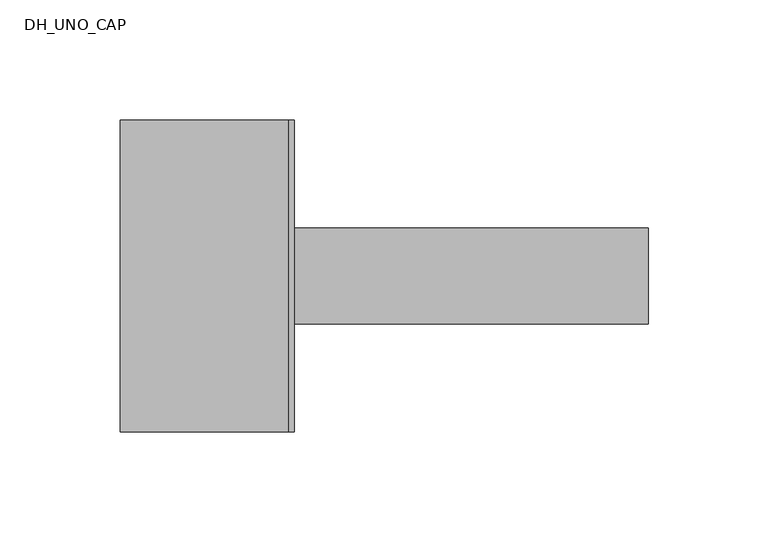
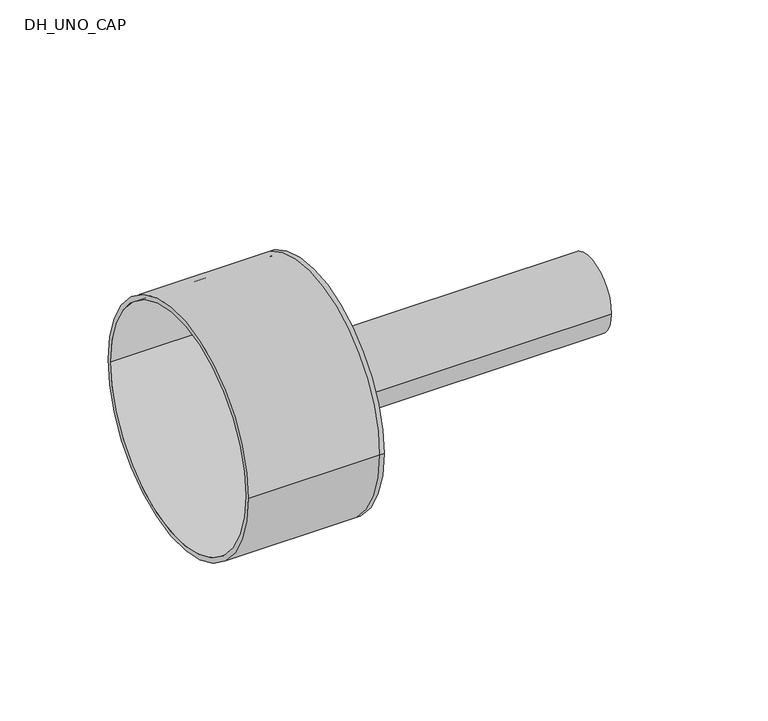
"""IFC4 building model written with IfcOpenShell, lengths in millimetres: pipe fitting geometry, DH_UNO_CAP : RAUVIPEX UNO + 11 Heating - Solid Cap."""

from ifc_helpers import new_model, si_unit, point, frame, origin, origin_2d, place, context, project, spatial, polyline, circle_curve, trimmed, segment, composite_curve, outline, extrude, source, transform, mapped, element, save
from ifc_brep_helpers import plane_surface, cylinder_surface, revolved_surface, advanced_brep


def dh_uno_cap_8bda4cdc(model_context):
    return source(origin(), model_context, "Body", "SolidModel", [
        extrude(outline(composite_curve([segment(trimmed(circle_curve(origin_2d(), 20.0), [point((-20.0, 0.0))], [point((20.0, 0.0))], False, "CARTESIAN"), True, "CONTINUOUS"), segment(trimmed(circle_curve(origin_2d(), 20.0), [point((20.0, 0.0))], [point((-20.0, 0.0))], False, "CARTESIAN"), True, "CONTINUOUS")], self_intersect=False), holes=[composite_curve([segment(trimmed(circle_curve(origin_2d(), 16.3), [point((-16.3, 0.0))], [point((16.3, 0.0))], True, "CARTESIAN"), True, "CONTINUOUS"), segment(trimmed(circle_curve(origin_2d(), 16.3), [point((16.3, 0.0))], [point((-16.3, 0.0))], True, "CARTESIAN"), True, "CONTINUOUS")], self_intersect=False)]), frame((0.0, 0.0, 0.0), z_axis=(1.0, 0.0, 0.0), x_axis=(0.0, 1.0, 0.0)), (0.0, 0.0, 1.0), 150.0),
        advanced_brep(
        [(-70.0, -65.0, 0.0), (-70.0, 65.0, 0.0), (-70.0, -62.5, 0.0), (-70.0, 62.5, 0.0), (0.0, -62.5, 0.0), (0.0, 62.5, 0.0), (0.0, -65.0, 0.0), (0.0, 65.0, 0.0), (0.0, 20.0, 0.0), (0.0, -20.0, 0.0), (2.5, -65.0, 0.0), (2.5, 65.0, 0.0), (2.5, -20.0, 0.0), (2.5, 20.0, 0.0)],
        [
            (0, 1, circle_curve(frame((-70.0, 0.0, 0.0), z_axis=(-1.0, 0.0, 0.0), x_axis=(0.0, 1.0, 0.0)), 65.0)),
            (1, 0, circle_curve(frame((-70.0, 0.0, 0.0), z_axis=(-1.0, 0.0, 0.0), x_axis=(0.0, 1.0, 0.0)), 65.0)),
            (2, 3, circle_curve(frame((-70.0, 0.0, 0.0), z_axis=(1.0, 0.0, 0.0), x_axis=(0.0, 1.0, 0.0)), 62.5)),
            (3, 2, circle_curve(frame((-70.0, 0.0, 0.0), z_axis=(1.0, 0.0, 0.0), x_axis=(0.0, 1.0, 0.0)), 62.5)),
            (2, 4),
            (4, 5, circle_curve(frame((0.0, 0.0, 0.0), z_axis=(1.0, 0.0, 0.0), x_axis=(0.0, 1.0, 0.0)), 62.5)),
            (5, 3),
            (5, 4, circle_curve(frame((0.0, 0.0, 0.0), z_axis=(1.0, 0.0, 0.0), x_axis=(0.0, 1.0, 0.0)), 62.5)),
            (0, 6),
            (6, 7, circle_curve(frame((0.0, 0.0, 0.0), z_axis=(-1.0, 0.0, 0.0), x_axis=(0.0, 1.0, 0.0)), 65.0)),
            (7, 1),
            (7, 6, circle_curve(frame((0.0, 0.0, 0.0), z_axis=(-1.0, 0.0, 0.0), x_axis=(0.0, 1.0, 0.0)), 65.0)),
            (8, 9, circle_curve(frame((0.0, 0.0, 0.0), z_axis=(1.0, 0.0, 0.0), x_axis=(0.0, 1.0, 0.0)), 20.0)),
            (9, 8, circle_curve(frame((0.0, 0.0, 0.0), z_axis=(1.0, 0.0, 0.0), x_axis=(0.0, 1.0, 0.0)), 20.0)),
            (10, 11, circle_curve(frame((2.5, 0.0, 0.0), z_axis=(1.0, 0.0, 0.0), x_axis=(0.0, 1.0, 0.0)), 65.0)),
            (11, 10, circle_curve(frame((2.5, 0.0, 0.0), z_axis=(1.0, 0.0, 0.0), x_axis=(0.0, 1.0, 0.0)), 65.0)),
            (12, 13, circle_curve(frame((2.5, 0.0, 0.0), z_axis=(-1.0, 0.0, 0.0), x_axis=(0.0, 1.0, 0.0)), 20.0)),
            (13, 12, circle_curve(frame((2.5, 0.0, 0.0), z_axis=(-1.0, 0.0, 0.0), x_axis=(0.0, 1.0, 0.0)), 20.0)),
            (11, 7),
            (6, 10),
            (8, 13),
            (12, 9),
        ],
        [
            plane_surface(frame((-70.0, 0.0, 0.0), z_axis=(-1.0, 0.0, 0.0), x_axis=(0.0, 0.0, 1.0))),
            revolved_surface(polyline([(0.0, 62.5, 0.0), (-70.0, 62.5, 0.0)]), (-70.0, 0.0, 0.0), (1.0, 0.0, 0.0)),
            cylinder_surface(frame((-70.0, 0.0, 0.0), z_axis=(-1.0, 0.0, 0.0), x_axis=(0.0, 1.0, 0.0)), 65.0),
            plane_surface(frame((0.0, 0.0, 0.0), z_axis=(-1.0, 0.0, 0.0), x_axis=(0.0, 0.0, 1.0))),
            plane_surface(frame((2.5, 0.0, 0.0), z_axis=(1.0, 0.0, 0.0), x_axis=(0.0, 0.0, 1.0))),
            cylinder_surface(frame((0.0, 0.0, 0.0), z_axis=(-1.0, 0.0, 0.0), x_axis=(0.0, 1.0, 0.0)), 65.0),
            revolved_surface(polyline([(0.0, 20.0, 0.0), (2.5, 20.0, 0.0)]), (0.0, 0.0, 0.0), (-1.0, 0.0, 0.0)),
        ],
        [
            (0, [[1, 2], [3, 4]]),
            (1, [[-3, 5, 6, 7]]),
            (1, [[-4, -7, 8, -5]]),
            (2, [[-1, 9, 10, 11]]),
            (2, [[-2, -11, 12, -9]]),
            (3, [[-6, -8], [13, 14]]),
            (4, [[15, 16], [17, 18]]),
            (5, [[-16, 19, -10, 20]]),
            (5, [[-15, -20, -12, -19]]),
            (6, [[21, -17, 22, -13]]),
            (6, [[-21, -14, -22, -18]]),
        ],
    ),
    ])


if __name__ == "__main__":
    model = new_model("IFC4")
    model_context = context("Model", 3, world=origin())
    ifc_project = project(units=[si_unit("LENGTHUNIT", "METRE", prefix="MILLI")], contexts=[model_context])
    site = spatial("IfcSite", under=ifc_project)
    building = spatial("IfcBuilding", under=site)
    placement = place(None, origin())
    dh_uno_cap_shape = dh_uno_cap_8bda4cdc(model_context)
    element("IfcPipeFitting", 1, ObjectType="DH_UNO_CAP : RAUVIPEX UNO + 11 Heating - Solid Cap", at=placement, inside=building, context=model_context, shape_type="MappedRepresentation", body=[
        mapped(dh_uno_cap_shape, transform((0.0, 0.0, 0.0), x_axis=(1.0, 0.0, 0.0), y_axis=(0.0, 1.0, 0.0), z_axis=(0.0, 0.0, 1.0))),
    ])
    save(model, "model.ifc")
